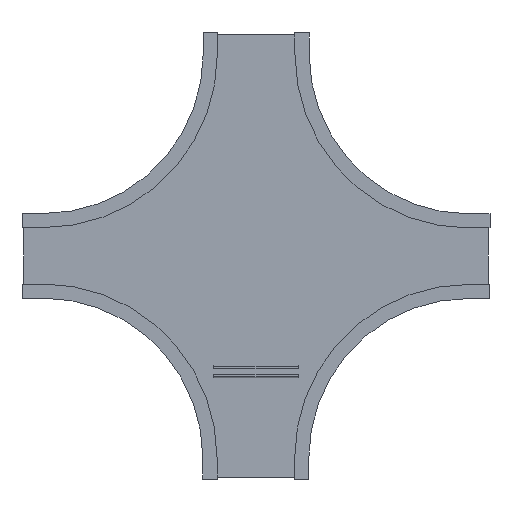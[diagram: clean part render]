
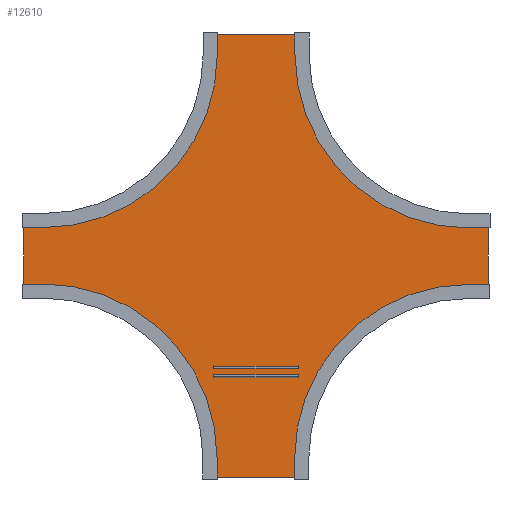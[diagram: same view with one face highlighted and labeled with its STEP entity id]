
A CAD part, front view. The second image highlights one B-rep face of the part: STEP entity #12610.
In plain terms, the highlighted planar face has unit normal (0, -1, 0).
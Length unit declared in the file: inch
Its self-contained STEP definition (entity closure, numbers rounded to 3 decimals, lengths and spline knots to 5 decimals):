
#12307=DIRECTION('',(0.,0.,1.));
#12308=VECTOR('',#12307,8.875);
#12309=CARTESIAN_POINT('',(-32.875,0.,-4.4375));
#12310=LINE('',#12309,#12308);
#12311=DIRECTION('',(1.,0.,0.));
#12312=VECTOR('',#12311,2.785);
#12313=CARTESIAN_POINT('',(-32.875,0.,4.4375));
#12314=LINE('',#12313,#12312);
#12315=CARTESIAN_POINT('',(-30.09,0.,28.59));
#12316=DIRECTION('',(0.,-1.,0.));
#12317=DIRECTION('',(0.,0.,-1.));
#12318=AXIS2_PLACEMENT_3D('',#12315,#12316,#12317);
#12320=DIRECTION('',(0.,0.,1.));
#12321=VECTOR('',#12320,2.785);
#12322=CARTESIAN_POINT('',(-5.9375,0.,28.59));
#12323=LINE('',#12322,#12321);
#12324=DIRECTION('',(1.,0.,0.));
#12325=VECTOR('',#12324,11.875);
#12326=CARTESIAN_POINT('',(-5.9375,0.,31.375));
#12327=LINE('',#12326,#12325);
#12328=DIRECTION('',(0.,0.,-1.));
#12329=VECTOR('',#12328,2.785);
#12330=CARTESIAN_POINT('',(5.9375,0.,31.375));
#12331=LINE('',#12330,#12329);
#12332=CARTESIAN_POINT('',(30.09,0.,28.59));
#12333=DIRECTION('',(0.,-1.,0.));
#12334=DIRECTION('',(-1.,0.,0.));
#12335=AXIS2_PLACEMENT_3D('',#12332,#12333,#12334);
#12337=DIRECTION('',(1.,0.,0.));
#12338=VECTOR('',#12337,2.785);
#12339=CARTESIAN_POINT('',(30.09,0.,4.4375));
#12340=LINE('',#12339,#12338);
#12341=DIRECTION('',(0.,0.,-1.));
#12342=VECTOR('',#12341,8.875);
#12343=CARTESIAN_POINT('',(32.875,0.,4.4375));
#12344=LINE('',#12343,#12342);
#12345=DIRECTION('',(-1.,0.,0.));
#12346=VECTOR('',#12345,2.785);
#12347=CARTESIAN_POINT('',(32.875,0.,-4.4375));
#12348=LINE('',#12347,#12346);
#12349=CARTESIAN_POINT('',(30.09,0.,-28.59));
#12350=DIRECTION('',(0.,-1.,0.));
#12351=DIRECTION('',(0.,0.,1.));
#12352=AXIS2_PLACEMENT_3D('',#12349,#12350,#12351);
#12354=DIRECTION('',(0.,0.,-1.));
#12355=VECTOR('',#12354,2.785);
#12356=CARTESIAN_POINT('',(5.9375,0.,-28.59));
#12357=LINE('',#12356,#12355);
#12358=DIRECTION('',(-1.,0.,0.));
#12359=VECTOR('',#12358,11.875);
#12360=CARTESIAN_POINT('',(5.9375,0.,-31.375));
#12361=LINE('',#12360,#12359);
#12362=DIRECTION('',(0.,0.,1.));
#12363=VECTOR('',#12362,2.785);
#12364=CARTESIAN_POINT('',(-5.9375,0.,-31.375));
#12365=LINE('',#12364,#12363);
#12366=CARTESIAN_POINT('',(-30.09,0.,-28.59));
#12367=DIRECTION('',(0.,-1.,0.));
#12368=DIRECTION('',(1.,0.,0.));
#12369=AXIS2_PLACEMENT_3D('',#12366,#12367,#12368);
#12371=DIRECTION('',(-1.,0.,0.));
#12372=VECTOR('',#12371,2.785);
#12373=CARTESIAN_POINT('',(-30.09,0.,-4.4375));
#12374=LINE('',#12373,#12372);
#12507=CARTESIAN_POINT('',(-32.875,0.,-4.4375));
#12508=CARTESIAN_POINT('',(-32.875,0.,4.4375));
#12509=VERTEX_POINT('',#12507);
#12510=VERTEX_POINT('',#12508);
#12511=CARTESIAN_POINT('',(-30.09,0.,4.4375));
#12512=VERTEX_POINT('',#12511);
#12513=CARTESIAN_POINT('',(-5.9375,0.,28.59));
#12514=VERTEX_POINT('',#12513);
#12515=CARTESIAN_POINT('',(-5.9375,0.,31.375));
#12516=VERTEX_POINT('',#12515);
#12517=CARTESIAN_POINT('',(5.9375,0.,31.375));
#12518=VERTEX_POINT('',#12517);
#12519=CARTESIAN_POINT('',(5.9375,0.,28.59));
#12520=VERTEX_POINT('',#12519);
#12521=CARTESIAN_POINT('',(30.09,0.,4.4375));
#12522=VERTEX_POINT('',#12521);
#12523=CARTESIAN_POINT('',(32.875,0.,4.4375));
#12524=VERTEX_POINT('',#12523);
#12525=CARTESIAN_POINT('',(32.875,0.,-4.4375));
#12526=VERTEX_POINT('',#12525);
#12527=CARTESIAN_POINT('',(30.09,0.,-4.4375));
#12528=VERTEX_POINT('',#12527);
#12529=CARTESIAN_POINT('',(5.9375,0.,-28.59));
#12530=VERTEX_POINT('',#12529);
#12531=CARTESIAN_POINT('',(5.9375,0.,-31.375));
#12532=VERTEX_POINT('',#12531);
#12533=CARTESIAN_POINT('',(-5.9375,0.,-31.375));
#12534=VERTEX_POINT('',#12533);
#12535=CARTESIAN_POINT('',(-5.9375,0.,-28.59));
#12536=VERTEX_POINT('',#12535);
#12537=CARTESIAN_POINT('',(-30.09,0.,-4.4375));
#12538=VERTEX_POINT('',#12537);
#12571=CARTESIAN_POINT('',(0.,0.,0.));
#12572=DIRECTION('',(0.,1.,0.));
#12573=DIRECTION('',(1.,0.,0.));
#12574=AXIS2_PLACEMENT_3D('',#12571,#12572,#12573);
#12575=PLANE('',#12574);
#12577=ORIENTED_EDGE('',*,*,#12576,.T.);
#12579=ORIENTED_EDGE('',*,*,#12578,.T.);
#12581=ORIENTED_EDGE('',*,*,#12580,.T.);
#12583=ORIENTED_EDGE('',*,*,#12582,.T.);
#12585=ORIENTED_EDGE('',*,*,#12584,.T.);
#12587=ORIENTED_EDGE('',*,*,#12586,.T.);
#12589=ORIENTED_EDGE('',*,*,#12588,.T.);
#12591=ORIENTED_EDGE('',*,*,#12590,.T.);
#12593=ORIENTED_EDGE('',*,*,#12592,.T.);
#12595=ORIENTED_EDGE('',*,*,#12594,.T.);
#12597=ORIENTED_EDGE('',*,*,#12596,.T.);
#12599=ORIENTED_EDGE('',*,*,#12598,.T.);
#12601=ORIENTED_EDGE('',*,*,#12600,.T.);
#12603=ORIENTED_EDGE('',*,*,#12602,.T.);
#12605=ORIENTED_EDGE('',*,*,#12604,.T.);
#12607=ORIENTED_EDGE('',*,*,#12606,.T.);
#12608=EDGE_LOOP('',(#12577,#12579,#12581,#12583,#12585,#12587,#12589,#12591,
#12593,#12595,#12597,#12599,#12601,#12603,#12605,#12607));
#12609=FACE_OUTER_BOUND('',#12608,.F.);
#12610=ADVANCED_FACE('',(#12609),#12575,.F.);
#12319=CIRCLE('',#12318,24.1525);
#12336=CIRCLE('',#12335,24.1525);
#12353=CIRCLE('',#12352,24.1525);
#12370=CIRCLE('',#12369,24.1525);
#12576=EDGE_CURVE('',#12509,#12510,#12310,.T.);
#12578=EDGE_CURVE('',#12510,#12512,#12314,.T.);
#12580=EDGE_CURVE('',#12512,#12514,#12319,.T.);
#12582=EDGE_CURVE('',#12514,#12516,#12323,.T.);
#12584=EDGE_CURVE('',#12516,#12518,#12327,.T.);
#12586=EDGE_CURVE('',#12518,#12520,#12331,.T.);
#12588=EDGE_CURVE('',#12520,#12522,#12336,.T.);
#12590=EDGE_CURVE('',#12522,#12524,#12340,.T.);
#12592=EDGE_CURVE('',#12524,#12526,#12344,.T.);
#12594=EDGE_CURVE('',#12526,#12528,#12348,.T.);
#12596=EDGE_CURVE('',#12528,#12530,#12353,.T.);
#12598=EDGE_CURVE('',#12530,#12532,#12357,.T.);
#12600=EDGE_CURVE('',#12532,#12534,#12361,.T.);
#12602=EDGE_CURVE('',#12534,#12536,#12365,.T.);
#12604=EDGE_CURVE('',#12536,#12538,#12370,.T.);
#12606=EDGE_CURVE('',#12538,#12509,#12374,.T.);
